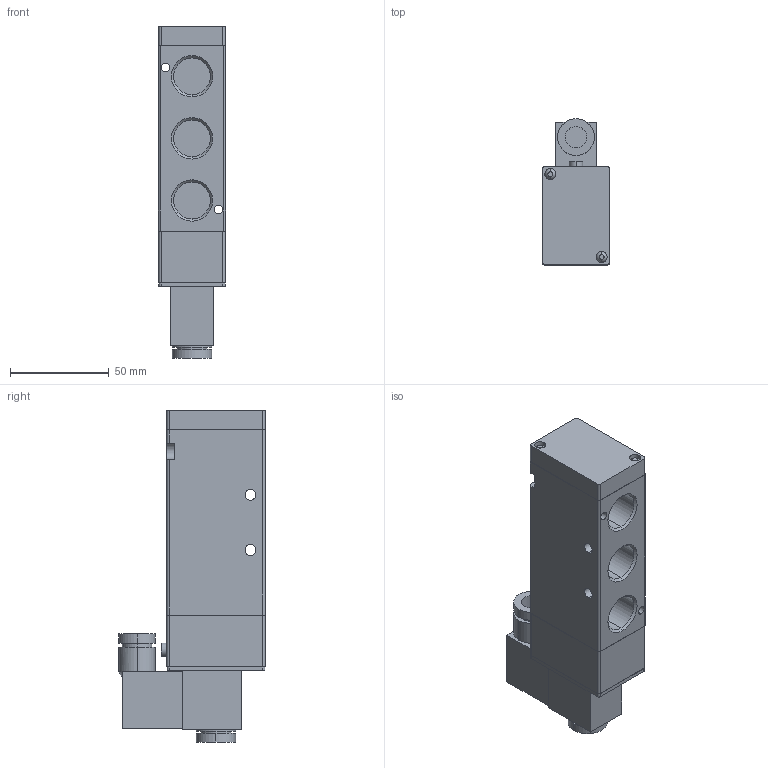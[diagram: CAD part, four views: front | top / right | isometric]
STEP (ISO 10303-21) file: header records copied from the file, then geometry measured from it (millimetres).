
FILE_DESCRIPTION (( 'STEP AP203' ), '1' );
FILE_NAME ('VB5-S04.STEP', '2020-04-15T17:03:44', ( '' ), ( '' ), 'SwSTEP 2.0', 'SolidWorks 2019', '' );
FILE_SCHEMA (( 'CONFIG_CONTROL_DESIGN' ));
Length unit declared in the file: millimetre
Products named in the file (1): VB5-S04
Bounding box: 34 x 74.3 x 168.4 mm (x, y, z)
Volume: 241500 mm3; surface area: 41393.2 mm2
Topology: 1 solids, 1 shells, 125 faces, 304 edges, 196 vertices
Faces by surface type: cylinder 58, plane 52, cone 11, sphere 4
Entity records: 3827 total; most frequent: DIRECTION 691, CARTESIAN_POINT 680, ORIENTED_EDGE 600, EDGE_CURVE 300, AXIS2_PLACEMENT_3D 266, VERTEX_POINT 196, LINE 159, VECTOR 159
